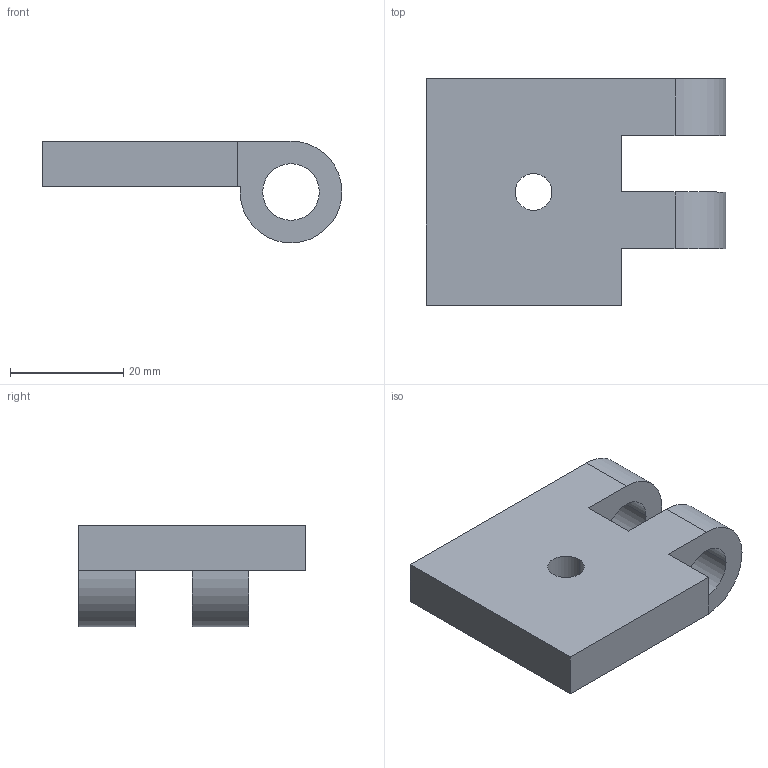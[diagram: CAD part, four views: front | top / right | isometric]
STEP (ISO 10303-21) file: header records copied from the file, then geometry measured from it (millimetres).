
FILE_DESCRIPTION((''),'2;1');
FILE_NAME('CE45_1','2002-12-27T',('Lipro doo'),('Lipro d.o.o.'),'PRO/ENGINEER BY PARAMETRIC TECHNOLOGY CORPORATION, 2001150','PRO/ENGINEER BY PARAMETRIC TECHNOLOGY CORPORATION, 2001150','');
FILE_SCHEMA(('CONFIG_CONTROL_DESIGN'));
Length unit declared in the file: millimetre
Products named in the file (1): CE45_1
Bounding box: 53 x 40 x 17.99 mm (x, y, z)
Volume: 14550.4 mm3; surface area: 6349.9 mm2
Topology: 1 solids, 1 shells, 20 faces, 52 edges, 34 vertices
Faces by surface type: plane 10, cylinder 8, cone 2
Entity records: 668 total; most frequent: DIRECTION 110, CARTESIAN_POINT 106, ORIENTED_EDGE 104, EDGE_CURVE 52, AXIS2_PLACEMENT_3D 38, VECTOR 34, LINE 34, VERTEX_POINT 34
